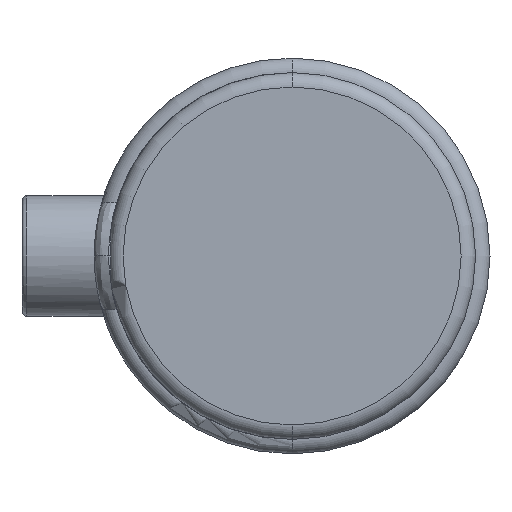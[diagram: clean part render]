
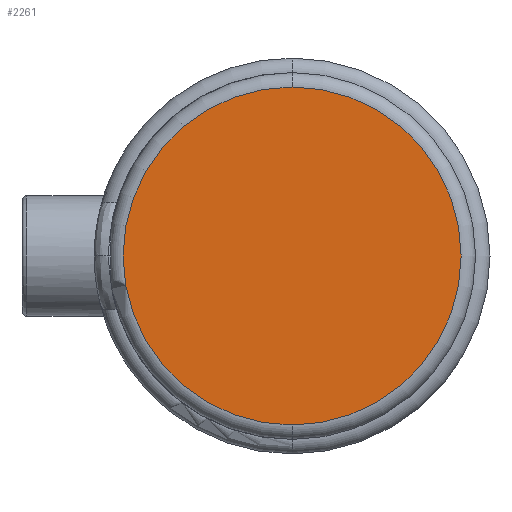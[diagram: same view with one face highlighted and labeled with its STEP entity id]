
A CAD part, left-side view. The second image highlights one B-rep face of the part: STEP entity #2261.
In plain terms, the highlighted planar face has unit normal (-1, 0, 0).
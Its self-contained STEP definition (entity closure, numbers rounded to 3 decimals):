
#536 = AXIS2_PLACEMENT_3D ( 'NONE', #4349, #1674, #4818 ) ;
#1120 = CARTESIAN_POINT ( 'NONE',  ( 0., 0., -35.1 ) ) ;
#1467 = CARTESIAN_POINT ( 'NONE',  ( 0., 0., 0. ) ) ;
#1674 = DIRECTION ( 'NONE',  ( -1., 0., 0. ) ) ;
#1896 = DIRECTION ( 'NONE',  ( -1., 0., 0. ) ) ;
#2261 = ADVANCED_FACE ( 'NONE', ( #4848 ), #4126, .T. ) ;
#2272 = AXIS2_PLACEMENT_3D ( 'NONE', #5069, #2369, #5532 ) ;
#2304 = EDGE_CURVE ( 'NONE', #4239, #3819, #4566, .T. ) ;
#2369 = DIRECTION ( 'NONE',  ( -1., 0., 0. ) ) ;
#2826 = ORIENTED_EDGE ( 'NONE', *, *, #4359, .T. ) ;
#3136 = CIRCLE ( 'NONE', #536, 35.1 ) ;
#3163 = AXIS2_PLACEMENT_3D ( 'NONE', #1467, #1896, #5051 ) ;
#3166 = ORIENTED_EDGE ( 'NONE', *, *, #2304, .T. ) ;
#3331 = CARTESIAN_POINT ( 'NONE',  ( 0., 0., 35.1 ) ) ;
#3819 = VERTEX_POINT ( 'NONE', #1120 ) ;
#4126 = PLANE ( 'NONE',  #3163 ) ;
#4239 = VERTEX_POINT ( 'NONE', #3331 ) ;
#4349 = CARTESIAN_POINT ( 'NONE',  ( 0., 0., 0. ) ) ;
#4359 = EDGE_CURVE ( 'NONE', #3819, #4239, #3136, .T. ) ;
#4566 = CIRCLE ( 'NONE', #2272, 35.1 ) ;
#4599 = EDGE_LOOP ( 'NONE', ( #3166, #2826 ) ) ;
#4818 = DIRECTION ( 'NONE',  ( 0., 0., 1. ) ) ;
#4848 = FACE_OUTER_BOUND ( 'NONE', #4599, .T. ) ;
#5051 = DIRECTION ( 'NONE',  ( 0., 0., 1. ) ) ;
#5069 = CARTESIAN_POINT ( 'NONE',  ( 0., 0., 0. ) ) ;
#5532 = DIRECTION ( 'NONE',  ( 0., 0., 1. ) ) ;
